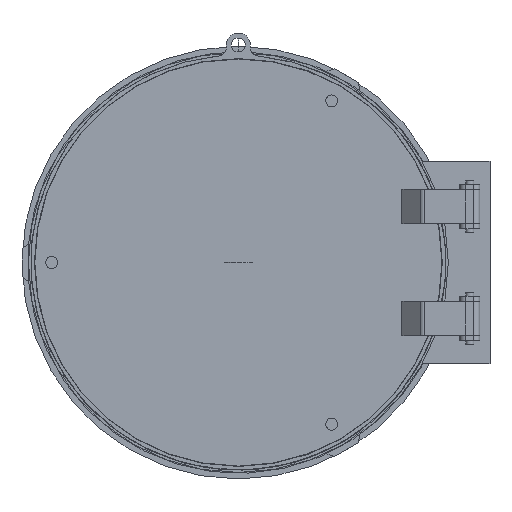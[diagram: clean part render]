
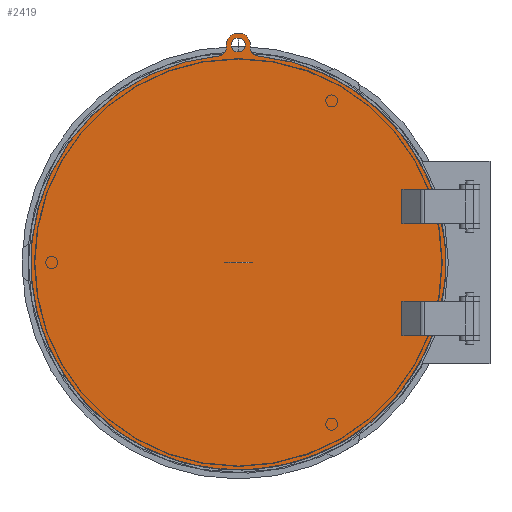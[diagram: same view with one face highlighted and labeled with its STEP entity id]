
A CAD part, top view. The second image highlights one B-rep face of the part: STEP entity #2419.
In plain terms, the highlighted planar face has unit normal (0, 0, 1).
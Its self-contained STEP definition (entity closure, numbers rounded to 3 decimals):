
#1531=CARTESIAN_POINT('',(0.,545.,20.));
#1532=DIRECTION('',(0.,0.,-1.));
#1533=DIRECTION('',(1.,0.,0.));
#1534=AXIS2_PLACEMENT_3D('',#1531,#1532,#1533);
#1539=CARTESIAN_POINT('',(0.,545.,20.));
#1540=DIRECTION('',(0.,0.,-1.));
#1541=DIRECTION('',(-1.,0.,0.));
#1542=AXIS2_PLACEMENT_3D('',#1539,#1540,#1541);
#1547=DIRECTION('',(-1.,0.,0.));
#1548=VECTOR('',#1547,100.873);
#1549=CARTESIAN_POINT('',(510.873,-97.,20.));
#1550=LINE('',#1549,#1548);
#1554=DIRECTION('',(0.,-1.,0.));
#1555=VECTOR('',#1554,86.);
#1556=CARTESIAN_POINT('',(410.,-97.,20.));
#1557=LINE('',#1556,#1555);
#1561=DIRECTION('',(-1.,0.,0.));
#1562=VECTOR('',#1561,76.735);
#1563=CARTESIAN_POINT('',(486.735,-183.,20.));
#1564=LINE('',#1563,#1562);
#1568=CARTESIAN_POINT('',(0.,0.,20.));
#1569=DIRECTION('',(0.,0.,1.));
#1570=DIRECTION('',(-0.093,0.996,0.));
#1571=AXIS2_PLACEMENT_3D('',#1568,#1569,#1570);
#1576=CARTESIAN_POINT('',(-50.,537.68,20.));
#1577=DIRECTION('',(0.,0.,-1.));
#1578=DIRECTION('',(1.,0.,0.));
#1579=AXIS2_PLACEMENT_3D('',#1576,#1577,#1578);
#1584=DIRECTION('',(0.,-1.,0.));
#1585=VECTOR('',#1584,7.32);
#1586=CARTESIAN_POINT('',(-30.,545.,20.));
#1587=LINE('',#1586,#1585);
#1591=CARTESIAN_POINT('',(0.,545.,20.));
#1592=DIRECTION('',(0.,0.,1.));
#1593=DIRECTION('',(1.,0.,0.));
#1594=AXIS2_PLACEMENT_3D('',#1591,#1592,#1593);
#1599=DIRECTION('',(0.,1.,0.));
#1600=VECTOR('',#1599,7.32);
#1601=CARTESIAN_POINT('',(30.,537.68,20.));
#1602=LINE('',#1601,#1600);
#1606=CARTESIAN_POINT('',(50.,537.68,20.));
#1607=DIRECTION('',(0.,0.,-1.));
#1608=DIRECTION('',(-0.093,-0.996,0.));
#1609=AXIS2_PLACEMENT_3D('',#1606,#1607,#1608);
#1614=CARTESIAN_POINT('',(0.,0.,20.));
#1615=DIRECTION('',(0.,0.,1.));
#1616=DIRECTION('',(0.936,0.352,0.));
#1617=AXIS2_PLACEMENT_3D('',#1614,#1615,#1616);
#1622=DIRECTION('',(-1.,0.,0.));
#1623=VECTOR('',#1622,76.735);
#1624=CARTESIAN_POINT('',(486.735,183.,20.));
#1625=LINE('',#1624,#1623);
#1629=DIRECTION('',(0.,1.,0.));
#1630=VECTOR('',#1629,86.);
#1631=CARTESIAN_POINT('',(410.,97.,20.));
#1632=LINE('',#1631,#1630);
#1636=DIRECTION('',(-1.,0.,0.));
#1637=VECTOR('',#1636,100.873);
#1638=CARTESIAN_POINT('',(510.873,97.,20.));
#1639=LINE('',#1638,#1637);
#1643=CARTESIAN_POINT('',(0.,0.,20.));
#1644=DIRECTION('',(0.,0.,1.));
#1645=DIRECTION('',(0.982,-0.187,0.));
#1646=AXIS2_PLACEMENT_3D('',#1643,#1644,#1645);
#1651=DIRECTION('',(-1.,0.,0.));
#1652=VECTOR('',#1651,70.);
#1653=CARTESIAN_POINT('',(35.,-0.5,20.));
#1654=LINE('',#1653,#1652);
#1658=DIRECTION('',(0.,1.,0.));
#1659=VECTOR('',#1658,1.);
#1660=CARTESIAN_POINT('',(35.,-0.5,20.));
#1661=LINE('',#1660,#1659);
#1665=DIRECTION('',(-1.,0.,0.));
#1666=VECTOR('',#1665,70.);
#1667=CARTESIAN_POINT('',(35.,0.5,20.));
#1668=LINE('',#1667,#1666);
#1672=DIRECTION('',(0.,1.,0.));
#1673=VECTOR('',#1672,1.);
#1674=CARTESIAN_POINT('',(-35.,-0.5,20.));
#1675=LINE('',#1674,#1673);
#2162=CARTESIAN_POINT('',(17.5,545.,20.));
#2163=CARTESIAN_POINT('',(-17.5,545.,20.));
#2164=VERTEX_POINT('',#2162);
#2165=VERTEX_POINT('',#2163);
#2166=CARTESIAN_POINT('',(-30.,545.,20.));
#2167=CARTESIAN_POINT('',(-30.,537.68,20.));
#2168=VERTEX_POINT('',#2166);
#2169=VERTEX_POINT('',#2167);
#2170=CARTESIAN_POINT('',(-48.148,517.766,20.));
#2171=VERTEX_POINT('',#2170);
#2172=CARTESIAN_POINT('',(48.148,517.766,20.));
#2173=CARTESIAN_POINT('',(30.,537.68,20.));
#2174=VERTEX_POINT('',#2172);
#2175=VERTEX_POINT('',#2173);
#2176=CARTESIAN_POINT('',(30.,545.,20.));
#2177=VERTEX_POINT('',#2176);
#2198=CARTESIAN_POINT('',(510.873,97.,20.));
#2199=VERTEX_POINT('',#2198);
#2200=CARTESIAN_POINT('',(486.735,183.,20.));
#2201=VERTEX_POINT('',#2200);
#2218=CARTESIAN_POINT('',(410.,97.,20.));
#2219=VERTEX_POINT('',#2218);
#2220=CARTESIAN_POINT('',(410.,183.,20.));
#2221=VERTEX_POINT('',#2220);
#2226=CARTESIAN_POINT('',(510.873,-97.,20.));
#2227=VERTEX_POINT('',#2226);
#2228=CARTESIAN_POINT('',(486.735,-183.,20.));
#2229=VERTEX_POINT('',#2228);
#2230=CARTESIAN_POINT('',(410.,-97.,20.));
#2231=VERTEX_POINT('',#2230);
#2232=CARTESIAN_POINT('',(410.,-183.,20.));
#2233=VERTEX_POINT('',#2232);
#2266=CARTESIAN_POINT('',(35.,-0.5,20.));
#2267=CARTESIAN_POINT('',(-35.,-0.5,20.));
#2268=VERTEX_POINT('',#2266);
#2269=VERTEX_POINT('',#2267);
#2270=CARTESIAN_POINT('',(35.,0.5,20.));
#2271=CARTESIAN_POINT('',(-35.,0.5,20.));
#2272=VERTEX_POINT('',#2270);
#2273=VERTEX_POINT('',#2271);
#2371=CARTESIAN_POINT('',(0.,0.,20.));
#2372=DIRECTION('',(0.,0.,1.));
#2373=DIRECTION('',(1.,0.,0.));
#2374=AXIS2_PLACEMENT_3D('',#2371,#2372,#2373);
#2375=PLANE('',#2374);
#2377=ORIENTED_EDGE('',*,*,#2376,.T.);
#2379=ORIENTED_EDGE('',*,*,#2378,.T.);
#2381=ORIENTED_EDGE('',*,*,#2380,.F.);
#2383=ORIENTED_EDGE('',*,*,#2382,.F.);
#2385=ORIENTED_EDGE('',*,*,#2384,.F.);
#2387=ORIENTED_EDGE('',*,*,#2386,.F.);
#2389=ORIENTED_EDGE('',*,*,#2388,.F.);
#2391=ORIENTED_EDGE('',*,*,#2390,.F.);
#2393=ORIENTED_EDGE('',*,*,#2392,.F.);
#2395=ORIENTED_EDGE('',*,*,#2394,.F.);
#2396=ORIENTED_EDGE('',*,*,#2362,.T.);
#2397=ORIENTED_EDGE('',*,*,#2283,.F.);
#2398=ORIENTED_EDGE('',*,*,#2316,.F.);
#2400=ORIENTED_EDGE('',*,*,#2399,.F.);
#2401=EDGE_LOOP('',(#2377,#2379,#2381,#2383,#2385,#2387,#2389,#2391,#2393,#2395,
#2396,#2397,#2398,#2400));
#2402=FACE_OUTER_BOUND('',#2401,.F.);
#2404=ORIENTED_EDGE('',*,*,#2403,.F.);
#2406=ORIENTED_EDGE('',*,*,#2405,.F.);
#2407=EDGE_LOOP('',(#2404,#2406));
#2408=FACE_BOUND('',#2407,.F.);
#2410=ORIENTED_EDGE('',*,*,#2409,.F.);
#2412=ORIENTED_EDGE('',*,*,#2411,.T.);
#2414=ORIENTED_EDGE('',*,*,#2413,.T.);
#2416=ORIENTED_EDGE('',*,*,#2415,.F.);
#2417=EDGE_LOOP('',(#2410,#2412,#2414,#2416));
#2418=FACE_BOUND('',#2417,.F.);
#1535=CIRCLE('',#1534,17.5);
#1543=CIRCLE('',#1542,17.5);
#1572=CIRCLE('',#1571,520.);
#1580=CIRCLE('',#1579,20.);
#1595=CIRCLE('',#1594,30.);
#1610=CIRCLE('',#1609,20.);
#1618=CIRCLE('',#1617,520.);
#1647=CIRCLE('',#1646,520.);
#2283=EDGE_CURVE('',#2219,#2221,#1632,.T.);
#2316=EDGE_CURVE('',#2199,#2219,#1639,.T.);
#2362=EDGE_CURVE('',#2201,#2221,#1625,.T.);
#2376=EDGE_CURVE('',#2227,#2231,#1550,.T.);
#2378=EDGE_CURVE('',#2231,#2233,#1557,.T.);
#2380=EDGE_CURVE('',#2229,#2233,#1564,.T.);
#2382=EDGE_CURVE('',#2171,#2229,#1572,.T.);
#2384=EDGE_CURVE('',#2169,#2171,#1580,.T.);
#2386=EDGE_CURVE('',#2168,#2169,#1587,.T.);
#2388=EDGE_CURVE('',#2177,#2168,#1595,.T.);
#2390=EDGE_CURVE('',#2175,#2177,#1602,.T.);
#2392=EDGE_CURVE('',#2174,#2175,#1610,.T.);
#2394=EDGE_CURVE('',#2201,#2174,#1618,.T.);
#2399=EDGE_CURVE('',#2227,#2199,#1647,.T.);
#2403=EDGE_CURVE('',#2164,#2165,#1535,.T.);
#2405=EDGE_CURVE('',#2165,#2164,#1543,.T.);
#2409=EDGE_CURVE('',#2268,#2269,#1654,.T.);
#2411=EDGE_CURVE('',#2268,#2272,#1661,.T.);
#2413=EDGE_CURVE('',#2272,#2273,#1668,.T.);
#2415=EDGE_CURVE('',#2269,#2273,#1675,.T.);
#2419=ADVANCED_FACE('',(#2402,#2408,#2418),#2375,.T.);
